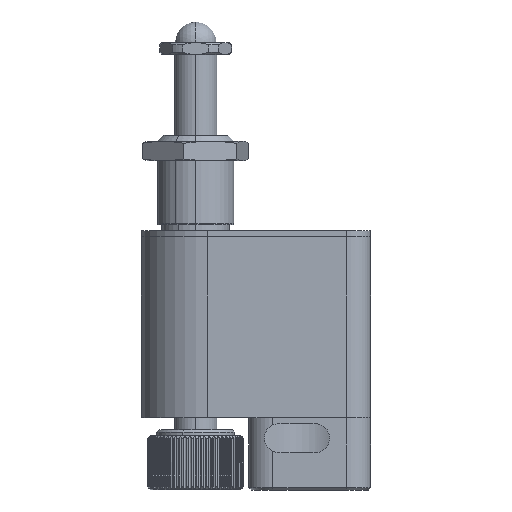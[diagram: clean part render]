
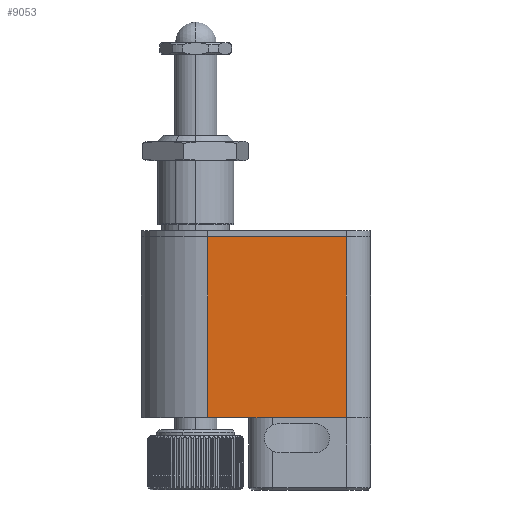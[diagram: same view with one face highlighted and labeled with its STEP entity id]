
A CAD part, left-side view. The second image highlights one B-rep face of the part: STEP entity #9053.
In plain terms, the highlighted planar face has unit normal (-1, 0, 0).
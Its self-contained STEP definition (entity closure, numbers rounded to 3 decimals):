
#262 = VERTEX_POINT ( 'NONE', #3895 ) ;
#317 = DIRECTION ( 'NONE',  ( 0., -1., 0. ) ) ;
#1101 = EDGE_LOOP ( 'NONE', ( #13874, #4038, #11778, #14436 ) ) ;
#1149 = VECTOR ( 'NONE', #10543, 1000. ) ;
#1636 = CARTESIAN_POINT ( 'NONE',  ( -5.5, 6.75, 3.7 ) ) ;
#2539 = VECTOR ( 'NONE', #3698, 1000. ) ;
#3425 = EDGE_CURVE ( 'NONE', #16269, #6795, #11974, .T. ) ;
#3698 = DIRECTION ( 'NONE',  ( 0., -1., 0. ) ) ;
#3821 = FACE_OUTER_BOUND ( 'NONE', #1101, .T. ) ;
#3895 = CARTESIAN_POINT ( 'NONE',  ( -5.5, -4.75, 3.7 ) ) ;
#4035 = CARTESIAN_POINT ( 'NONE',  ( -5.5, -4.75, -11.3 ) ) ;
#4038 = ORIENTED_EDGE ( 'NONE', *, *, #8930, .T. ) ;
#5818 = EDGE_CURVE ( 'NONE', #11196, #262, #14980, .T. ) ;
#6079 = CARTESIAN_POINT ( 'NONE',  ( -5.5, 6.75, -11.3 ) ) ;
#6272 = CARTESIAN_POINT ( 'NONE',  ( -5.5, 6.75, -11.3 ) ) ;
#6795 = VERTEX_POINT ( 'NONE', #10143 ) ;
#8123 = CARTESIAN_POINT ( 'NONE',  ( -5.5, 6.75, -11.3 ) ) ;
#8466 = LINE ( 'NONE', #1636, #1149 ) ;
#8930 = EDGE_CURVE ( 'NONE', #16269, #11196, #15153, .T. ) ;
#9053 = ADVANCED_FACE ( 'NONE', ( #3821 ), #14691, .F. ) ;
#9168 = AXIS2_PLACEMENT_3D ( 'NONE', #8123, #9375, #317 ) ;
#9347 = CARTESIAN_POINT ( 'NONE',  ( -5.5, -4.75, -11.3 ) ) ;
#9375 = DIRECTION ( 'NONE',  ( 1., 0., 0. ) ) ;
#10092 = DIRECTION ( 'NONE',  ( 0., 0., 1. ) ) ;
#10143 = CARTESIAN_POINT ( 'NONE',  ( -5.5, 6.75, 3.7 ) ) ;
#10248 = CARTESIAN_POINT ( 'NONE',  ( -5.5, -4.75, -11.3 ) ) ;
#10543 = DIRECTION ( 'NONE',  ( 0., 1., 0. ) ) ;
#10593 = EDGE_CURVE ( 'NONE', #262, #6795, #8466, .T. ) ;
#11196 = VERTEX_POINT ( 'NONE', #4035 ) ;
#11778 = ORIENTED_EDGE ( 'NONE', *, *, #5818, .T. ) ;
#11962 = DIRECTION ( 'NONE',  ( 0., 0., 1. ) ) ;
#11974 = LINE ( 'NONE', #6079, #12808 ) ;
#12808 = VECTOR ( 'NONE', #10092, 1000. ) ;
#13549 = VECTOR ( 'NONE', #11962, 1000. ) ;
#13874 = ORIENTED_EDGE ( 'NONE', *, *, #3425, .F. ) ;
#14436 = ORIENTED_EDGE ( 'NONE', *, *, #10593, .T. ) ;
#14691 = PLANE ( 'NONE',  #9168 ) ;
#14980 = LINE ( 'NONE', #9347, #13549 ) ;
#15153 = LINE ( 'NONE', #10248, #2539 ) ;
#16269 = VERTEX_POINT ( 'NONE', #6272 ) ;
